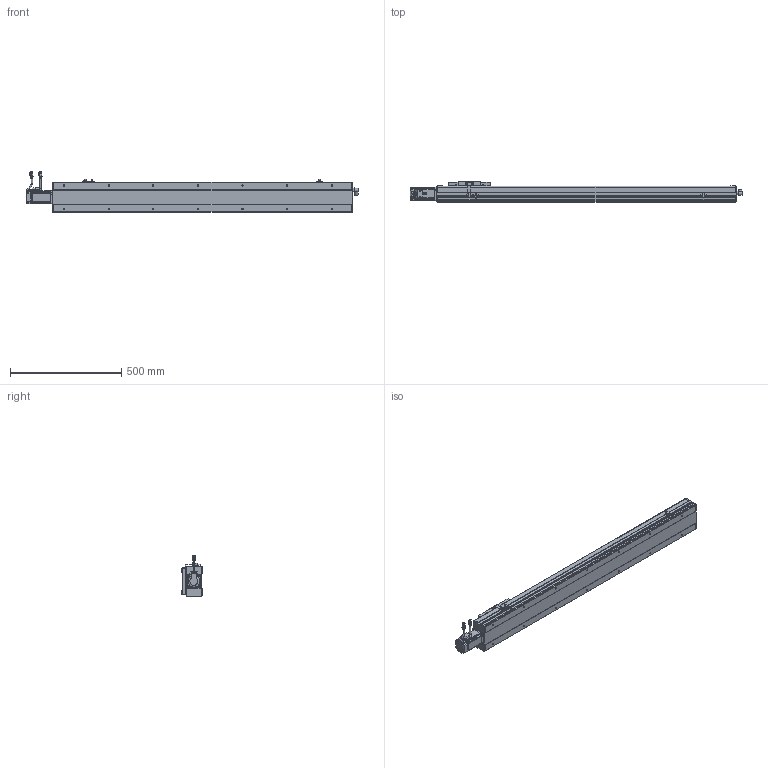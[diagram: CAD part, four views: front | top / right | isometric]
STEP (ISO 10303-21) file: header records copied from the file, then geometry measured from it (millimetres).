
FILE_DESCRIPTION(/* description */ ('STEP AP214'),/* implementation_level */ '2;1');
FILE_NAME(/* name */ 'PSC140-L05-S1050-BC-P40-C1-N(0)',/* time_stamp */ '2022-06-13T03:16:20+02:00',/* author */ ('License CC BY-ND 4.0'),/* organization */ ('CADENAS'),/* preprocessor_version */ 'ST-DEVELOPER v18.102',/* originating_system */ 'PARTsolutions',/* authorisation */ ' ');
FILE_SCHEMA (('AP203_CONFIGURATION_CONTROLLED_3D_DESIGN_OF_MECHANICAL_PARTS_AND_ASSEMBLIES_MIM_LF { 1 0 10303 203 3 1 4 }','AUTOMOTIVE_DESIGN {1 0 10303 214 3 1 1}'));
Length unit declared in the file: millimetre
Products named in the file (10): PSC140-L05-S1050-BC-P40-C1-N(0); P40-s2; P40-c2; P40-s1; P40-c1; P40-p1; PSC140-sensor; PSC140-BC-SLIDER; PSC140-S1050-BC-P40-C1_BODY1; PSC140-L05-S1050-BC-P40-C1-N(0)_dummy
Assembly tree (11 placements, depth 2):
  PSC140-L05-S1050-BC-P40-C1-N(0)
    P40-s2
    P40-c2
    P40-s1
    P40-c1
    P40-p1
    PSC140-sensor  x3
    PSC140-BC-SLIDER
    PSC140-S1050-BC-P40-C1_BODY1
    PSC140-L05-S1050-BC-P40-C1-N(0)_dummy
Bounding box: 1489 x 91 x 182.48 mm (x, y, z)
Volume: 13503537.2 mm3; surface area: 762811.6 mm2
Topology: 10 solids, 10 shells, 1256 faces, 3230 edges, 2133 vertices
Faces by surface type: plane 868, cylinder 319, cone 50, torus 19
Full cylindrical faces by diameter (mm): 1 x8, 2.6 x10, 2.8 x3, 3.3 x8, 4.5 x12, 4.6 x3, 4.917 x18, 5 x4, 5.5 x8, 6 x10, 6.08 x4, 7 x10, 9 x2, 10 x1, 11 x1, 13.74 x1, 14 x1, 16.4 x2, 16.5 x1, 19.98 x1, 31.98 x1, 35.5 x1, 50 x2
Entity records: 34598 total; most frequent: CARTESIAN_POINT 6037, DIRECTION 5827, ORIENTED_EDGE 5594, EDGE_CURVE 2797, LINE 2109, VECTOR 2109, VERTEX_POINT 1954, AXIS2_PLACEMENT_3D 1859
